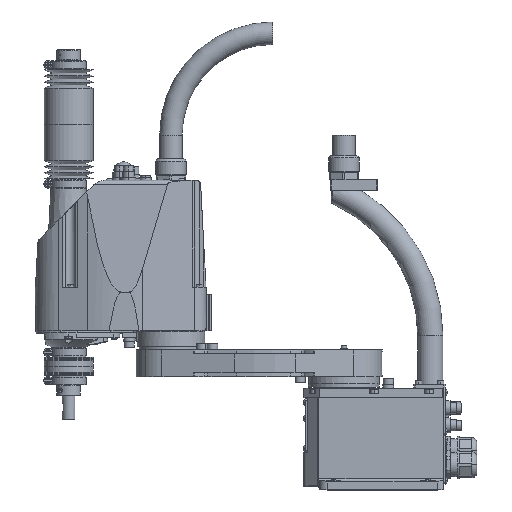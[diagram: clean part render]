
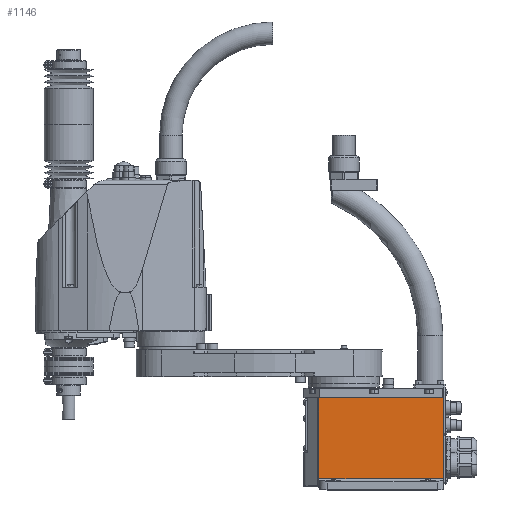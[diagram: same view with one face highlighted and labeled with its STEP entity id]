
A CAD part, top view. The second image highlights one B-rep face of the part: STEP entity #1146.
In plain terms, the highlighted planar face has unit normal (0, 0, 1).
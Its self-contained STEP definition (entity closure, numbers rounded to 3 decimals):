
#1146 = ADVANCED_FACE( '', ( #4012 ), #4013, .T. );
#4012 = FACE_OUTER_BOUND( '', #8348, .T. );
#4013 = PLANE( '', #8349 );
#8348 = EDGE_LOOP( '', ( #16797, #16798, #16799, #16800 ) );
#8349 = AXIS2_PLACEMENT_3D( '', #16801, #16802, #16803 );
#16797 = ORIENTED_EDGE( '', *, *, #28527, .T. );
#16798 = ORIENTED_EDGE( '', *, *, #28399, .T. );
#16799 = ORIENTED_EDGE( '', *, *, #28570, .T. );
#16800 = ORIENTED_EDGE( '', *, *, #28257, .F. );
#16801 = CARTESIAN_POINT( '', ( -51.5, 14., 50.5 ) );
#16802 = DIRECTION( '', ( 0., 0., 1. ) );
#16803 = DIRECTION( '', ( 0., -1., 0. ) );
#28257 = EDGE_CURVE( '', #34049, #34051, #34052, .T. );
#28399 = EDGE_CURVE( '', #34277, #34275, #34278, .T. );
#28527 = EDGE_CURVE( '', #34049, #34277, #34476, .T. );
#28570 = EDGE_CURVE( '', #34275, #34051, #34540, .T. );
#34049 = VERTEX_POINT( '', #43209 );
#34051 = VERTEX_POINT( '', #43211 );
#34052 = LINE( '', #43212, #43213 );
#34275 = VERTEX_POINT( '', #43666 );
#34277 = VERTEX_POINT( '', #43668 );
#34278 = LINE( '', #43669, #43670 );
#34476 = LINE( '', #44055, #44056 );
#34540 = LINE( '', #44177, #44178 );
#43209 = CARTESIAN_POINT( '', ( -31.897, 117., 50.5 ) );
#43211 = CARTESIAN_POINT( '', ( 127., 117., 50.5 ) );
#43212 = CARTESIAN_POINT( '', ( -51.5, 117., 50.5 ) );
#43213 = VECTOR( '', #55869, 1. );
#43666 = CARTESIAN_POINT( '', ( 127., 14., 50.5 ) );
#43668 = CARTESIAN_POINT( '', ( -31.897, 14., 50.5 ) );
#43669 = CARTESIAN_POINT( '', ( -51.5, 14., 50.5 ) );
#43670 = VECTOR( '', #56080, 1. );
#44055 = CARTESIAN_POINT( '', ( -31.897, 65.5, 50.5 ) );
#44056 = VECTOR( '', #56283, 1. );
#44177 = CARTESIAN_POINT( '', ( 127., 117., 50.5 ) );
#44178 = VECTOR( '', #56342, 1. );
#55869 = DIRECTION( '', ( 1., 0., 0. ) );
#56080 = DIRECTION( '', ( 1., 0., 0. ) );
#56283 = DIRECTION( '', ( 0., -1., 0. ) );
#56342 = DIRECTION( '', ( 0., 1., 0. ) );
